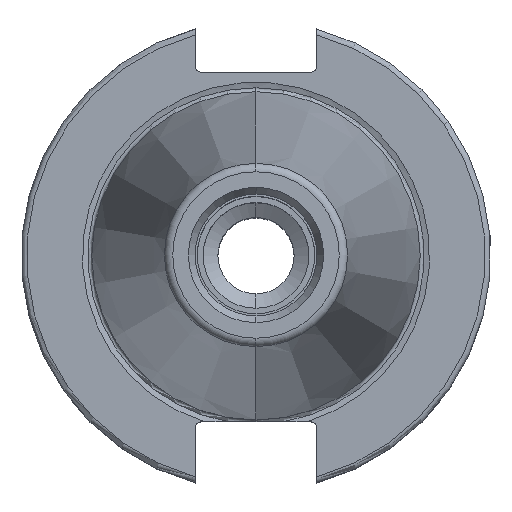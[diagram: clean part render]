
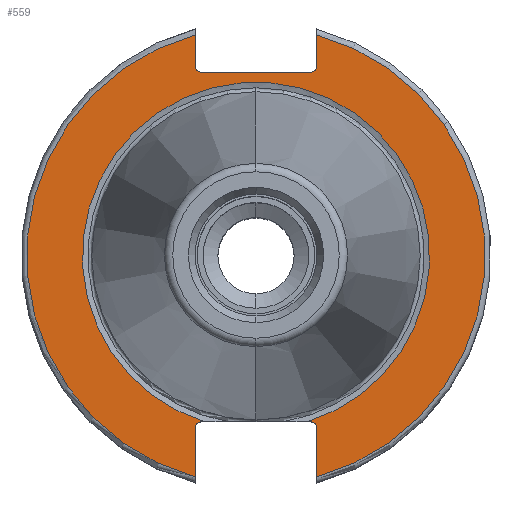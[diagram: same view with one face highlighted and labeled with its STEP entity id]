
A CAD part, top view. The second image highlights one B-rep face of the part: STEP entity #559.
In plain terms, the highlighted planar face has unit normal (0, 0, 1).
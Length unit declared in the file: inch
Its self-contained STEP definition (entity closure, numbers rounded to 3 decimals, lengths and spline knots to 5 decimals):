
#53 = LINE ( 'NONE', #10223, #13182 ) ;
#267 = CARTESIAN_POINT ( 'NONE',  ( -0.2925, -0.8825, -0.125 ) ) ;
#293 = DIRECTION ( 'NONE',  ( 0., 0., -1. ) ) ;
#559 = ADVANCED_FACE ( 'NONE', ( #5461 ), #12789, .T. ) ;
#713 = CARTESIAN_POINT ( 'NONE',  ( 1.22, -0.8825, -0.125 ) ) ;
#972 = ORIENTED_EDGE ( 'NONE', *, *, #8735, .F. ) ;
#1250 = AXIS2_PLACEMENT_3D ( 'NONE', #8765, #11917, #8855 ) ;
#1520 = EDGE_CURVE ( 'NONE', #9344, #12487, #9423, .T. ) ;
#1580 = CARTESIAN_POINT ( 'NONE',  ( -0.3225, 0., -0.125 ) ) ;
#1727 = EDGE_CURVE ( 'NONE', #11457, #3822, #11892, .T. ) ;
#1948 = VERTEX_POINT ( 'NONE', #267 ) ;
#1964 = DIRECTION ( 'NONE',  ( 0., 1., 0. ) ) ;
#2104 = LINE ( 'NONE', #7857, #5409 ) ;
#2509 = CARTESIAN_POINT ( 'NONE',  ( 0.3225, -1.1766, -0.125 ) ) ;
#2527 = EDGE_CURVE ( 'NONE', #12487, #13925, #12392, .T. ) ;
#2678 = AXIS2_PLACEMENT_3D ( 'NONE', #8008, #9459, #13839 ) ;
#2845 = CIRCLE ( 'NONE', #3158, 1.22 ) ;
#3158 = AXIS2_PLACEMENT_3D ( 'NONE', #13318, #293, #6079 ) ;
#3162 = AXIS2_PLACEMENT_3D ( 'NONE', #5854, #7514, #13358 ) ;
#3262 = EDGE_CURVE ( 'NONE', #7763, #9344, #9345, .T. ) ;
#3574 = DIRECTION ( 'NONE',  ( 1., 0., 0. ) ) ;
#3822 = VERTEX_POINT ( 'NONE', #15725 ) ;
#4320 = DIRECTION ( 'NONE',  ( 0., 0., -1. ) ) ;
#4447 = DIRECTION ( 'NONE',  ( 1., 0., 0. ) ) ;
#4525 = VERTEX_POINT ( 'NONE', #7103 ) ;
#5034 = CARTESIAN_POINT ( 'NONE',  ( 0.27356, -0.8825, -0.125 ) ) ;
#5181 = CARTESIAN_POINT ( 'NONE',  ( -0.3225, -1.1766, -0.125 ) ) ;
#5326 = CARTESIAN_POINT ( 'NONE',  ( -0.3225, 0., -0.125 ) ) ;
#5409 = VECTOR ( 'NONE', #13694, 39.37008 ) ;
#5442 = DIRECTION ( 'NONE',  ( 0., -1., 0. ) ) ;
#5461 = FACE_OUTER_BOUND ( 'NONE', #5977, .T. ) ;
#5674 = AXIS2_PLACEMENT_3D ( 'NONE', #12834, #18605, #11383 ) ;
#5823 = DIRECTION ( 'NONE',  ( 1., 0., 0. ) ) ;
#5854 = CARTESIAN_POINT ( 'NONE',  ( -0.2925, -0.9125, -0.125 ) ) ;
#5977 = EDGE_LOOP ( 'NONE', ( #5998, #16107, #10320, #6417, #7424, #18219, #16105, #7362, #10863, #972, #10131, #8730, #13310, #8350 ) ) ;
#5998 = ORIENTED_EDGE ( 'NONE', *, *, #15194, .F. ) ;
#6079 = DIRECTION ( 'NONE',  ( 0., 1., 0. ) ) ;
#6111 = AXIS2_PLACEMENT_3D ( 'NONE', #9928, #11061, #12594 ) ;
#6142 = EDGE_CURVE ( 'NONE', #16249, #4525, #2104, .T. ) ;
#6417 = ORIENTED_EDGE ( 'NONE', *, *, #15179, .T. ) ;
#6645 = VECTOR ( 'NONE', #3574, 39.37008 ) ;
#6738 = VECTOR ( 'NONE', #7332, 39.37008 ) ;
#7103 = CARTESIAN_POINT ( 'NONE',  ( 0.3225, 1.1766, -0.125 ) ) ;
#7326 = VERTEX_POINT ( 'NONE', #10679 ) ;
#7332 = DIRECTION ( 'NONE',  ( 0., -1., 0. ) ) ;
#7362 = ORIENTED_EDGE ( 'NONE', *, *, #1520, .T. ) ;
#7424 = ORIENTED_EDGE ( 'NONE', *, *, #15095, .T. ) ;
#7514 = DIRECTION ( 'NONE',  ( 0., 0., -1. ) ) ;
#7763 = VERTEX_POINT ( 'NONE', #5034 ) ;
#7857 = CARTESIAN_POINT ( 'NONE',  ( 0.3225, 0., -0.125 ) ) ;
#8008 = CARTESIAN_POINT ( 'NONE',  ( 0.2925, 1.0075, -0.125 ) ) ;
#8107 = CIRCLE ( 'NONE', #2678, 0.03 ) ;
#8350 = ORIENTED_EDGE ( 'NONE', *, *, #1727, .T. ) ;
#8540 = CARTESIAN_POINT ( 'NONE',  ( -0.3225, -0.9125, -0.125 ) ) ;
#8730 = ORIENTED_EDGE ( 'NONE', *, *, #17973, .T. ) ;
#8735 = EDGE_CURVE ( 'NONE', #4525, #13925, #13562, .T. ) ;
#8765 = CARTESIAN_POINT ( 'NONE',  ( 0.2925, -0.9125, -0.125 ) ) ;
#8855 = DIRECTION ( 'NONE',  ( 0., -1., 0. ) ) ;
#9189 = VERTEX_POINT ( 'NONE', #9633 ) ;
#9344 = VERTEX_POINT ( 'NONE', #16742 ) ;
#9345 = LINE ( 'NONE', #713, #6645 ) ;
#9373 = VERTEX_POINT ( 'NONE', #5181 ) ;
#9420 = CARTESIAN_POINT ( 'NONE',  ( 0.3225, 1.0075, -0.125 ) ) ;
#9423 = CIRCLE ( 'NONE', #1250, 0.03 ) ;
#9459 = DIRECTION ( 'NONE',  ( 0., 0., -1. ) ) ;
#9633 = CARTESIAN_POINT ( 'NONE',  ( -0.27356, -0.8825, -0.125 ) ) ;
#9723 = VERTEX_POINT ( 'NONE', #8540 ) ;
#9801 = EDGE_CURVE ( 'NONE', #11457, #7326, #17491, .T. ) ;
#9928 = CARTESIAN_POINT ( 'NONE',  ( 1.22, 0., -0.125 ) ) ;
#10131 = ORIENTED_EDGE ( 'NONE', *, *, #6142, .F. ) ;
#10223 = CARTESIAN_POINT ( 'NONE',  ( 1.22, -0.8825, -0.125 ) ) ;
#10320 = ORIENTED_EDGE ( 'NONE', *, *, #12330, .T. ) ;
#10620 = DIRECTION ( 'NONE',  ( 0., 0., -1. ) ) ;
#10679 = CARTESIAN_POINT ( 'NONE',  ( 0.2925, 0.9775, -0.125 ) ) ;
#10863 = ORIENTED_EDGE ( 'NONE', *, *, #2527, .T. ) ;
#10968 = EDGE_CURVE ( 'NONE', #9189, #7763, #13172, .T. ) ;
#11018 = CIRCLE ( 'NONE', #3162, 0.03 ) ;
#11061 = DIRECTION ( 'NONE',  ( 0., 0., 1. ) ) ;
#11383 = DIRECTION ( 'NONE',  ( 0., 1., 0. ) ) ;
#11457 = VERTEX_POINT ( 'NONE', #13417 ) ;
#11519 = CARTESIAN_POINT ( 'NONE',  ( 1.22, 0.9775, -0.125 ) ) ;
#11577 = VECTOR ( 'NONE', #5823, 39.37008 ) ;
#11614 = CARTESIAN_POINT ( 'NONE',  ( -0.2925, 1.0075, -0.125 ) ) ;
#11711 = DIRECTION ( 'NONE',  ( 0., -1., 0. ) ) ;
#11892 = CIRCLE ( 'NONE', #18234, 0.03 ) ;
#11917 = DIRECTION ( 'NONE',  ( 0., 0., -1. ) ) ;
#12330 = EDGE_CURVE ( 'NONE', #9373, #9723, #15470, .T. ) ;
#12392 = LINE ( 'NONE', #18062, #13751 ) ;
#12487 = VERTEX_POINT ( 'NONE', #15361 ) ;
#12594 = DIRECTION ( 'NONE',  ( 0., -1., 0. ) ) ;
#12789 = PLANE ( 'NONE',  #6111 ) ;
#12834 = CARTESIAN_POINT ( 'NONE',  ( 0., 0., -0.125 ) ) ;
#13172 = CIRCLE ( 'NONE', #15552, 0.92393 ) ;
#13182 = VECTOR ( 'NONE', #4447, 39.37008 ) ;
#13310 = ORIENTED_EDGE ( 'NONE', *, *, #9801, .F. ) ;
#13318 = CARTESIAN_POINT ( 'NONE',  ( 0., 0., -0.125 ) ) ;
#13358 = DIRECTION ( 'NONE',  ( 0., -1., 0. ) ) ;
#13417 = CARTESIAN_POINT ( 'NONE',  ( -0.2925, 0.9775, -0.125 ) ) ;
#13562 = CIRCLE ( 'NONE', #5674, 1.22 ) ;
#13694 = DIRECTION ( 'NONE',  ( 0., 1., 0. ) ) ;
#13751 = VECTOR ( 'NONE', #5442, 39.37008 ) ;
#13839 = DIRECTION ( 'NONE',  ( 0., -1., 0. ) ) ;
#13925 = VERTEX_POINT ( 'NONE', #2509 ) ;
#14428 = DIRECTION ( 'NONE',  ( 0., 1., 0. ) ) ;
#14951 = CARTESIAN_POINT ( 'NONE',  ( 0., 0., -0.125 ) ) ;
#14989 = VERTEX_POINT ( 'NONE', #16459 ) ;
#15095 = EDGE_CURVE ( 'NONE', #1948, #9189, #53, .T. ) ;
#15179 = EDGE_CURVE ( 'NONE', #9723, #1948, #11018, .T. ) ;
#15194 = EDGE_CURVE ( 'NONE', #14989, #3822, #17607, .T. ) ;
#15361 = CARTESIAN_POINT ( 'NONE',  ( 0.3225, -0.9125, -0.125 ) ) ;
#15470 = LINE ( 'NONE', #5326, #15652 ) ;
#15552 = AXIS2_PLACEMENT_3D ( 'NONE', #14951, #10620, #1964 ) ;
#15652 = VECTOR ( 'NONE', #14428, 39.37008 ) ;
#15725 = CARTESIAN_POINT ( 'NONE',  ( -0.3225, 1.0075, -0.125 ) ) ;
#16022 = EDGE_CURVE ( 'NONE', #9373, #14989, #2845, .T. ) ;
#16105 = ORIENTED_EDGE ( 'NONE', *, *, #3262, .T. ) ;
#16107 = ORIENTED_EDGE ( 'NONE', *, *, #16022, .F. ) ;
#16249 = VERTEX_POINT ( 'NONE', #9420 ) ;
#16459 = CARTESIAN_POINT ( 'NONE',  ( -0.3225, 1.1766, -0.125 ) ) ;
#16742 = CARTESIAN_POINT ( 'NONE',  ( 0.2925, -0.8825, -0.125 ) ) ;
#17491 = LINE ( 'NONE', #11519, #11577 ) ;
#17607 = LINE ( 'NONE', #1580, #6738 ) ;
#17973 = EDGE_CURVE ( 'NONE', #16249, #7326, #8107, .T. ) ;
#18062 = CARTESIAN_POINT ( 'NONE',  ( 0.3225, 0., -0.125 ) ) ;
#18219 = ORIENTED_EDGE ( 'NONE', *, *, #10968, .T. ) ;
#18234 = AXIS2_PLACEMENT_3D ( 'NONE', #11614, #4320, #11711 ) ;
#18605 = DIRECTION ( 'NONE',  ( 0., 0., -1. ) ) ;
